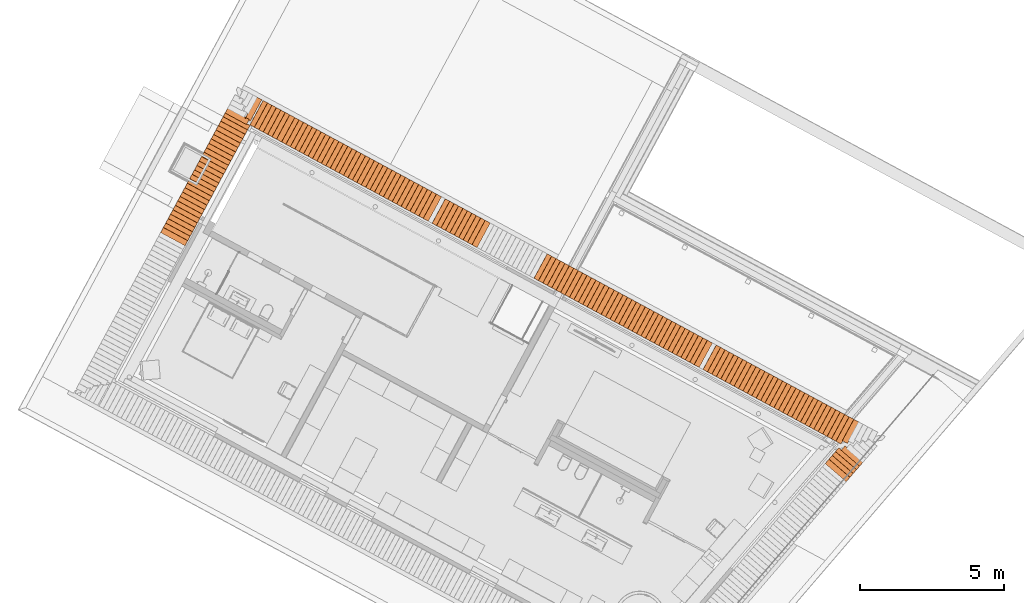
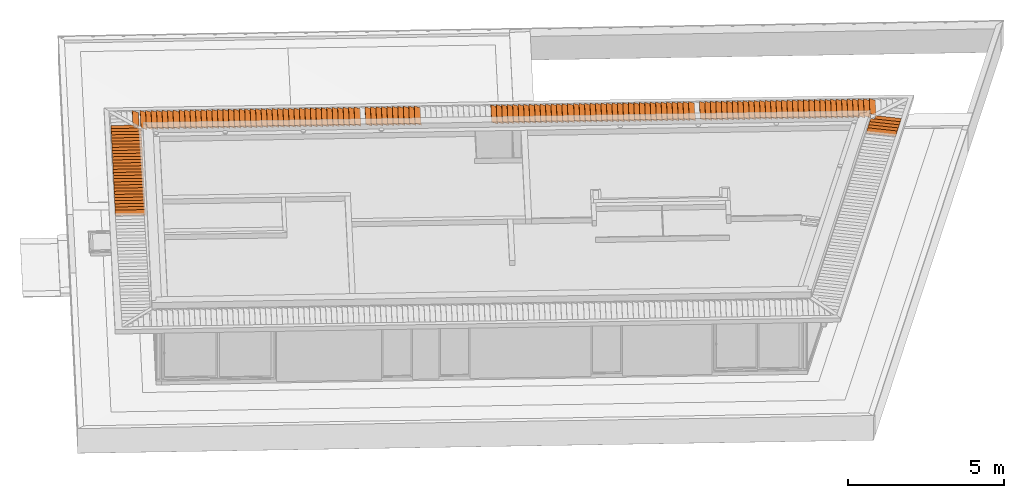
# One storey, part 37 of 48: 153 proxies.
"""IFC2X3 building model written with IfcOpenShell, lengths in metres."""

import ifcopenshell
import ifcopenshell.guid

model = None  # the IFC model being written
_history = None  # IfcOwnerHistory: only IFC2X3 demands one
_inside = {}  # id of a spatial element -> (the spatial element, [elements in it])
_under = {}  # id of a project, library or spatial element -> (it, [spatial elements below it])
_declared = {}  # id of a project -> (the project, [libraries it declares])
_typed = {}  # id of a type object -> (the type object, [elements of that type])
_made_of = {}  # id of a material, layer set ... -> (it, [elements and type objects made of it])


def new_model(schema):
    """Start an empty IFC model of exactly this schema.

    Asked for "IFC4X3", IfcOpenShell would pick the latest addendum, in which some entities
    have other attributes; the version numbers below select the first issue.
    IFC2X3 requires an IfcOwnerHistory on every rooted entity: one is made here for all.
    """
    global model, _history
    if schema == "IFC4X3":
        model = ifcopenshell.file(schema_version=(4, 3, 0, 0))
    else:
        model = ifcopenshell.file(schema=schema)
    _inside.clear()
    _under.clear()
    _declared.clear()
    _typed.clear()
    _made_of.clear()
    _history = None
    if model.schema == "IFC2X3":
        org = make("IfcOrganization", Name="unknown")
        user = make(
            "IfcPersonAndOrganization",
            ThePerson=make("IfcPerson", FamilyName="unknown"),
            TheOrganization=org,
        )
        app = make(
            "IfcApplication",
            ApplicationDeveloper=org,
            Version="unknown",
            ApplicationFullName="unknown",
            ApplicationIdentifier="unknown",
        )
        _history = make(
            "IfcOwnerHistory",
            OwningUser=user,
            OwningApplication=app,
            ChangeAction="ADDED",
            CreationDate=0,
        )
    return model


def make(cls, **values):
    """One entity of the class cls with the attributes given. An attribute that is None is left unset."""
    return model.create_entity(
        cls, **{name: value for name, value in values.items() if value is not None}
    )


def entity(cls, *values):
    """Any entity or typed value of the class cls, its attributes in the order of the schema. None: left unset."""
    e = model.create_entity(cls)
    for i, value in enumerate(values):
        if value is not None:
            e[i] = value
    return e


def rooted(cls, **values):
    """An entity with a GlobalId (a new one), such as an element, a storey or a relation."""
    return make(cls, GlobalId=ifcopenshell.guid.new(), OwnerHistory=_history, **values)


def si_unit(unit_type, name, prefix=None):
    """IfcSIUnit, for example si_unit("LENGTHUNIT", "METRE", prefix="MILLI")."""
    return make("IfcSIUnit", UnitType=unit_type, Prefix=prefix, Name=name)


def converted_unit(unit_type, name, factor, base, dimensions=None, offset=None):
    """IfcConversionBasedUnit, such as the inch: factor (a typed value) times the base unit."""
    return make(
        "IfcConversionBasedUnit"
        if offset is None
        else "IfcConversionBasedUnitWithOffset",
        ConversionOffset=offset,
        Dimensions=None
        if dimensions is None
        else entity("IfcDimensionalExponents", *dimensions),
        UnitType=unit_type,
        Name=name,
        ConversionFactor=make(
            "IfcMeasureWithUnit", ValueComponent=factor, UnitComponent=base
        ),
    )


def derived_unit(unit_type, elements):
    """IfcDerivedUnit: a product of units, each with its exponent."""
    return make(
        "IfcDerivedUnit",
        Elements=[
            make("IfcDerivedUnitElement", Unit=unit, Exponent=power)
            for unit, power in elements
        ],
        UnitType=unit_type,
    )


def money_unit(currency):
    """IfcMonetaryUnit."""
    return make("IfcMonetaryUnit", Currency=currency)


def assignment(units):
    """IfcUnitAssignment: the units of a project."""
    return None if units is None else make("IfcUnitAssignment", Units=units)


def point(xyz):
    """IfcCartesianPoint."""
    return None if xyz is None else make("IfcCartesianPoint", Coordinates=xyz)


def direction(xyz):
    """IfcDirection."""
    return None if xyz is None else make("IfcDirection", DirectionRatios=xyz)


def frame(location, z_axis=None, x_axis=None):
    """IfcAxis2Placement3D, a coordinate frame: its origin and axes. An axis left out is left unset."""
    return make(
        "IfcAxis2Placement3D",
        Location=point(location),
        Axis=direction(z_axis),
        RefDirection=direction(x_axis),
    )


def origin_with_axes():
    """The frame at (0, 0, 0) with the z axis (0, 0, 1) and the x axis (1, 0, 0) written out."""
    return frame((0.0, 0.0, 0.0), z_axis=(0.0, 0.0, 1.0), x_axis=(1.0, 0.0, 0.0))


def place(relative_to, where):
    """IfcLocalPlacement: puts the frame where relative to a parent placement (None: the world)."""
    return make(
        "IfcLocalPlacement", PlacementRelTo=relative_to, RelativePlacement=where
    )


def context(
    kind, dimensions, precision=None, world=None, true_north=None, identifier=None
):
    """IfcGeometricRepresentationContext, for example the 3D "Model" context."""
    return make(
        "IfcGeometricRepresentationContext",
        ContextIdentifier=identifier,
        ContextType=kind,
        CoordinateSpaceDimension=dimensions,
        Precision=precision,
        WorldCoordinateSystem=world,
        TrueNorth=true_north,
    )


def subcontext(parent, identifier, kind, view, scale=None):
    """IfcGeometricRepresentationSubContext, for example "Body" below "Model"."""
    return make(
        "IfcGeometricRepresentationSubContext",
        ContextIdentifier=identifier,
        ContextType=kind,
        ParentContext=parent,
        TargetScale=scale,
        TargetView=view,
    )


def project(units=None, contexts=None):
    """IfcProject with its units and contexts."""
    return rooted(
        "IfcProject",
        Name="project",
        RepresentationContexts=contexts,
        UnitsInContext=assignment(units),
    )


def spatial(cls, under=None, at=None, **own):
    """A site, building, storey or space (cls), placed at a placement, below another one or the project."""
    s = rooted(cls, ObjectPlacement=at, **own)
    if under is not None:
        _under.setdefault(under.id(), (under, []))[1].append(s)
    return s


def faces_of(points, faces, orient=None, outer=None):
    """IfcFace entities. A face is a list of loops; a loop is a list of indices into points, from 0.

    orient and outer hold one flag for each loop. By default every Orientation is true, the
    first loop of a face is its IfcFaceOuterBound and the others are IfcFaceBound.
    """
    made = []
    for i, loops in enumerate(faces):
        bounds = []
        for j, loop in enumerate(loops):
            is_outer = j == 0 if outer is None else outer[i][j]
            bounds.append(
                make(
                    "IfcFaceOuterBound" if is_outer else "IfcFaceBound",
                    Bound=make("IfcPolyLoop", Polygon=[points[k] for k in loop]),
                    Orientation=True if orient is None else orient[i][j],
                )
            )
        made.append(make("IfcFace", Bounds=bounds))
    return made


def faceted_brep(points, faces, orient=None, outer=None, voids=None):
    """IfcFacetedBrep: a solid bounded by flat faces; with voids (closed shells), ...WithVoids."""
    shared = [point(p) for p in points]
    hull = make("IfcClosedShell", CfsFaces=faces_of(shared, faces, orient, outer))
    if voids is None:
        return make("IfcFacetedBrep", Outer=hull)
    return make(
        "IfcFacetedBrepWithVoids",
        Outer=hull,
        Voids=[
            make(cls, CfsFaces=faces_of(shared, fs, o, b)) for cls, fs, o, b in voids
        ],
    )


def shape(context_of_items, identifier, shape_type, items):
    """IfcShapeRepresentation: the items that make up one representation, for example the "Body"."""
    return make(
        "IfcShapeRepresentation",
        ContextOfItems=context_of_items,
        RepresentationIdentifier=identifier,
        RepresentationType=shape_type,
        Items=items,
    )


def source(mapping_origin, context_of_items, identifier, shape_type, items):
    """IfcRepresentationMap: a shape defined once, which mapped items show again and again."""
    return make(
        "IfcRepresentationMap",
        MappingOrigin=mapping_origin,
        MappedRepresentation=shape(context_of_items, identifier, shape_type, items),
    )


def transform(
    local_origin,
    x_axis=None,
    y_axis=None,
    z_axis=None,
    scale=None,
    scale2=None,
    scale3=None,
    uniform=True,
):
    """IfcCartesianTransformationOperator3D, or its non-uniform kind. x_axis, y_axis, z_axis: its Axis1, 2, 3."""
    if uniform:
        return make(
            "IfcCartesianTransformationOperator3D",
            Axis1=direction(x_axis),
            Axis2=direction(y_axis),
            LocalOrigin=point(local_origin),
            Scale=scale,
            Axis3=direction(z_axis),
        )
    return make(
        "IfcCartesianTransformationOperator3DnonUniform",
        Axis1=direction(x_axis),
        Axis2=direction(y_axis),
        LocalOrigin=point(local_origin),
        Scale=scale,
        Axis3=direction(z_axis),
        Scale2=scale2,
        Scale3=scale3,
    )


def mapped(mapping_source, mapping_target):
    """IfcMappedItem: shows the shape of a source again, moved by a transform."""
    return make(
        "IfcMappedItem", MappingSource=mapping_source, MappingTarget=mapping_target
    )


def material(Name=None, Category=None):
    """IfcMaterial."""
    return make("IfcMaterial", Name=Name, Category=Category)


def made_of(thing, what):
    """Note that an element or type object is made of a material, layer set ...; save() writes the relation."""
    if what is not None:
        _made_of.setdefault(what.id(), (what, []))[1].append(thing)
    return thing


def type_object(cls, material=None, **own):
    """A type object (cls), such as IfcWallType, which elements share."""
    return made_of(rooted(cls, **own), material)


def element(
    cls,
    number,
    at=None,
    inside=None,
    cuts=None,
    type_object=None,
    material=None,
    context=None,
    identifier="Body",
    shape_type=None,
    held_by="IfcProductDefinitionShape",
    body=None,
    shapes=None,
    **own,
):
    """One element of the class cls, such as IfcWall. Its Tag is "e" and its number.

    at: its placement. inside: the storey or other place that contains it. cuts: it is an
    opening in that element (IfcRelVoidsElement). A single representation is given by context,
    identifier, shape_type and body (its items); several are given by shapes. held_by: the class
    of the entity that holds the representations. save() writes the other relations.
    """
    e = rooted(cls, Tag="e%d" % number, ObjectPlacement=at, **own)
    if body is not None:
        shapes = [shape(context, identifier, shape_type, body)]
    if shapes is not None:
        e.Representation = make(held_by, Representations=shapes)
    if inside is not None:
        _inside.setdefault(inside.id(), (inside, []))[1].append(e)
    if cuts is not None:
        rooted(
            "IfcRelVoidsElement", RelatingBuildingElement=cuts, RelatedOpeningElement=e
        )
    if type_object is not None:
        _typed.setdefault(type_object.id(), (type_object, []))[1].append(e)
    return made_of(e, material)


def aggregate(whole, parts):
    """IfcRelAggregates: a whole, such as a stair, and the parts it consists of."""
    return rooted("IfcRelAggregates", RelatingObject=whole, RelatedObjects=parts)


def save(model, path):
    """Write the relations noted so far, then the file.

    IfcRelAggregates (storeys below a building ...), IfcRelContainedInSpatialStructure (elements
    in a storey), IfcRelDefinesByType, IfcRelAssociatesMaterial and IfcRelDeclares: one each for
    every whole, place, type object, material and project.
    """
    for whole, parts in _under.values():
        aggregate(whole, parts)
    for where, things in _inside.values():
        rooted(
            "IfcRelContainedInSpatialStructure",
            RelatedElements=things,
            RelatingStructure=where,
        )
    for kind, things in _typed.values():
        rooted("IfcRelDefinesByType", RelatedObjects=things, RelatingType=kind)
    for what, things in _made_of.values():
        rooted("IfcRelAssociatesMaterial", RelatedObjects=things, RelatingMaterial=what)
    for by, libraries in _declared.values():
        rooted("IfcRelDeclares", RelatingContext=by, RelatedDefinitions=libraries)
    model.write(path)


model = new_model("IFC2X3")

# Units and contexts
model_context = context("Model", 3, precision=1e-05, world=origin_with_axes(), true_north=direction((0.0, 1.0)))
body_context = subcontext(model_context, "Body", "Model", "MODEL_VIEW")
ifc_project = project(units=[si_unit("LENGTHUNIT", "METRE"), si_unit("AREAUNIT", "SQUARE_METRE"), si_unit("VOLUMEUNIT", "CUBIC_METRE"), converted_unit("PLANEANGLEUNIT", "DEGREE", entity("IfcPlaneAngleMeasure", 0.0174532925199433), si_unit("PLANEANGLEUNIT", "RADIAN"), dimensions=[0, 0, 0, 0, 0, 0, 0]), money_unit("EUR"), converted_unit("TIMEUNIT", "Year", entity("IfcTimeMeasure", 31556926.0), si_unit("TIMEUNIT", "SECOND"), dimensions=[0, 0, 1, 0, 0, 0, 0]), si_unit("MASSUNIT", "GRAM", prefix="KILO"), si_unit("THERMODYNAMICTEMPERATUREUNIT", "DEGREE_CELSIUS"), si_unit("LUMINOUSINTENSITYUNIT", "LUMEN"), si_unit("ENERGYUNIT", "JOULE", prefix="MEGA"), derived_unit("THERMALCONDUCTANCEUNIT", [(si_unit("POWERUNIT", "WATT"), 1), (si_unit("LENGTHUNIT", "METRE"), -1), (si_unit("THERMODYNAMICTEMPERATUREUNIT", "KELVIN"), -1)]), derived_unit("SPECIFICHEATCAPACITYUNIT", [(si_unit("ENERGYUNIT", "JOULE"), 1), (si_unit("MASSUNIT", "GRAM", prefix="KILO"), -1), (si_unit("THERMODYNAMICTEMPERATUREUNIT", "KELVIN"), -1)]), derived_unit("MASSDENSITYUNIT", [(si_unit("MASSUNIT", "GRAM", prefix="KILO"), 1), (si_unit("VOLUMEUNIT", "CUBIC_METRE"), -1)])], contexts=[model_context])

# Site, building, storey
site_placement = place(None, frame((-3.949935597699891, 1.740105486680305, 0.0), z_axis=(0.0, 0.0, 1.0), x_axis=(0.8799804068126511, -0.475009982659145, 0.0)))
site = spatial("IfcSite", under=ifc_project, at=site_placement, Name="Gelände", CompositionType="ELEMENT")
building_placement = place(site_placement, origin_with_axes())
building = spatial("IfcBuilding", under=site, at=building_placement, Name="Gebäude", CompositionType="ELEMENT")
storey_placement = place(building_placement, frame((0.0, 0.0, 4.55), z_axis=(0.0, 0.0, 1.0), x_axis=(1.0, 0.0, 0.0)))
storey = spatial("IfcBuildingStorey", under=building, at=storey_placement, Name="Staffelgeschoss", CompositionType="ELEMENT", Elevation=4.55)

# Proxies
ifc_material = material(Name="ALLGEMEIN - BAUTEIL")
building_element_proxy_type = type_object("IfcBuildingElementProxyType", Name="ALLGEMEIN - BAUTEIL", PredefinedType="NOTDEFINED")
shared_shape_1 = source(origin_with_axes(), body_context, "Body", "Brep", [
    faceted_brep([(0.2148913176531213, -0.9669323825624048, 0.0), (0.0, -0.9669000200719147, 0.0), (0.0, 0.0, 0.0), (0.2150369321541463, -3.238441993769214e-05, 0.0), (0.2148913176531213, -0.9669323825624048, 0.009999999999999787), (0.0, -0.9669000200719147, 0.009999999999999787), (0.0, 0.0, 0.009999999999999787), (0.2150369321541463, -3.238441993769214e-05, 0.009999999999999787)], [[[0, 1, 2, 3]], [[1, 0, 4, 5]], [[5, 6, 2, 1]], [[6, 7, 3, 2]], [[4, 0, 3, 7]], [[6, 5, 4, 7]]]),
])
for number, where, z_axis, x_axis, name in (
    (1, (5.895087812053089, 12.18825268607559, 2.903466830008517), (0.3575193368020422, 0.0, 0.933905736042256), (0.933905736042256, 0.0, -0.3575193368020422), "Morph-037"),
    (2, (6.070046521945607, 12.18825268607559, 2.903466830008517), (0.3575193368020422, 0.0, 0.933905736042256), (0.933905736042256, 0.0, -0.3575193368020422), "Morph-037"),
    (3, (5.034057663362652, 11.20856037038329, 2.903466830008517), (0.0, -0.3575193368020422, 0.933905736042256), (0.0, -0.933905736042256, -0.3575193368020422), "Morph-037"),
    (4, (5.034057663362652, 11.03360166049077, 2.903466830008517), (0.0, -0.3575193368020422, 0.933905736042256), (0.0, -0.933905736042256, -0.3575193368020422), "Morph-037"),
    (5, (5.034057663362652, 10.85864295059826, 2.903466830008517), (0.0, -0.3575193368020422, 0.933905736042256), (0.0, -0.933905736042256, -0.3575193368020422), "Morph-037"),
    (6, (5.034057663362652, 10.50872553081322, 2.903466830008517), (0.0, -0.3575193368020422, 0.933905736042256), (0.0, -0.933905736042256, -0.3575193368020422), "Morph-037"),
    (7, (5.034057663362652, 10.68368424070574, 2.903466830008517), (0.0, -0.3575193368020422, 0.933905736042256), (0.0, -0.933905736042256, -0.3575193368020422), "Morph-037"),
    (8, (5.034057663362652, 10.3337668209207, 2.903466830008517), (0.0, -0.3575193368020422, 0.933905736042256), (0.0, -0.933905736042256, -0.3575193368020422), "Morph-037"),
    (9, (5.034057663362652, 10.15880811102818, 2.903466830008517), (0.0, -0.3575193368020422, 0.933905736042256), (0.0, -0.933905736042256, -0.3575193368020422), "Morph-037"),
    (10, (5.034057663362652, 9.983849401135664, 2.903466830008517), (0.0, -0.3575193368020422, 0.933905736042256), (0.0, -0.933905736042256, -0.3575193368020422), "Morph-037"),
    (11, (5.034057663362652, 9.808890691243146, 2.903466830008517), (0.0, -0.3575193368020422, 0.933905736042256), (0.0, -0.933905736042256, -0.3575193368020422), "Morph-037"),
    (12, (5.034057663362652, 9.45897327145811, 2.903466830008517), (0.0, -0.3575193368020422, 0.933905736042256), (0.0, -0.933905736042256, -0.3575193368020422), "Morph-037"),
    (13, (5.034057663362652, 9.633931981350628, 2.903466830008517), (0.0, -0.3575193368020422, 0.933905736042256), (0.0, -0.933905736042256, -0.3575193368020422), "Morph-037"),
    (14, (5.034057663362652, 9.284014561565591, 2.903466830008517), (0.0, -0.3575193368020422, 0.933905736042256), (0.0, -0.933905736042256, -0.3575193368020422), "Morph-037"),
    (15, (5.034057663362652, 8.934097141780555, 2.903466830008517), (0.0, -0.3575193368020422, 0.933905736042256), (0.0, -0.933905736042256, -0.3575193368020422), "Morph-037"),
    (16, (5.034057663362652, 9.109055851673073, 2.903466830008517), (0.0, -0.3575193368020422, 0.933905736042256), (0.0, -0.933905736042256, -0.3575193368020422), "Morph-037"),
    (17, (5.034057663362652, 8.759138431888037, 2.903466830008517), (0.0, -0.3575193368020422, 0.933905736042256), (0.0, -0.933905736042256, -0.3575193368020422), "Morph-037"),
    (18, (5.034057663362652, 8.584179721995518, 2.903466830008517), (0.0, -0.3575193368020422, 0.933905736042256), (0.0, -0.933905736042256, -0.3575193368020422), "Morph-037"),
    (19, (5.034057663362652, 8.409221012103, 2.903466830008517), (0.0, -0.3575193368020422, 0.933905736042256), (0.0, -0.933905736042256, -0.3575193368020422), "Morph-037"),
    (20, (5.034057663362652, 8.059303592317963, 2.903466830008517), (0.0, -0.3575193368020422, 0.933905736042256), (0.0, -0.933905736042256, -0.3575193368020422), "Morph-037"),
    (21, (5.034057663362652, 7.884344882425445, 2.903466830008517), (0.0, -0.3575193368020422, 0.933905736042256), (0.0, -0.933905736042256, -0.3575193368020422), "Morph-037"),
    (22, (5.034057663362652, 8.234262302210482, 2.903466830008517), (0.0, -0.3575193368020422, 0.933905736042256), (0.0, -0.933905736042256, -0.3575193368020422), "Morph-037"),
    (23, (5.034057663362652, 7.709386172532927, 2.903466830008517), (0.0, -0.3575193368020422, 0.933905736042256), (0.0, -0.933905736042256, -0.3575193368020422), "Morph-037"),
    (24, (5.034057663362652, 7.534427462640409, 2.903466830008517), (0.0, -0.3575193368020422, 0.933905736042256), (0.0, -0.933905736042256, -0.3575193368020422), "Morph-037"),
    (25, (5.034057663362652, 7.35946875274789, 2.903466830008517), (0.0, -0.3575193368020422, 0.933905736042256), (0.0, -0.933905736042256, -0.3575193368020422), "Morph-037"),
    (26, (5.034057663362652, 7.184510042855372, 2.903466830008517), (0.0, -0.3575193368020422, 0.933905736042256), (0.0, -0.933905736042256, -0.3575193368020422), "Morph-037"),
    (27, (5.034057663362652, 7.009551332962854, 2.903466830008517), (0.0, -0.3575193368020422, 0.933905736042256), (0.0, -0.933905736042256, -0.3575193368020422), "Morph-037"),
    (28, (5.034057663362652, 6.834592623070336, 2.903466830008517), (0.0, -0.3575193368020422, 0.933905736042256), (0.0, -0.933905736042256, -0.3575193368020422), "Morph-037"),
    (29, (5.034057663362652, 6.659633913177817, 2.903466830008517), (0.0, -0.3575193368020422, 0.933905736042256), (0.0, -0.933905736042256, -0.3575193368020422), "Morph-037"),
    (30, (6.61542166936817, 12.18825268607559, 2.903466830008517), (0.3575193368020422, 0.0, 0.933905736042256), (0.933905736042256, 0.0, -0.3575193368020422), "Morph-037"),
    (31, (6.440462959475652, 12.18825268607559, 2.903466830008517), (0.3575193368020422, 0.0, 0.933905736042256), (0.933905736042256, 0.0, -0.3575193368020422), "Morph-037"),
    (32, (6.790380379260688, 12.18825268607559, 2.903466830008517), (0.3575193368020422, 0.0, 0.933905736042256), (0.933905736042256, 0.0, -0.3575193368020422), "Morph-037"),
    (33, (7.140297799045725, 12.18825268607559, 2.903466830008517), (0.3575193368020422, 0.0, 0.933905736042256), (0.933905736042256, 0.0, -0.3575193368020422), "Morph-037"),
    (34, (6.965339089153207, 12.18825268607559, 2.903466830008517), (0.3575193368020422, 0.0, 0.933905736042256), (0.933905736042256, 0.0, -0.3575193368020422), "Morph-037"),
    (35, (7.315256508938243, 12.18825268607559, 2.903466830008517), (0.3575193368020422, 0.0, 0.933905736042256), (0.933905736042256, 0.0, -0.3575193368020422), "Morph-037"),
    (36, (7.490215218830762, 12.18825268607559, 2.903466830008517), (0.3575193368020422, 0.0, 0.933905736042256), (0.933905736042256, 0.0, -0.3575193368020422), "Morph-037"),
    (37, (7.66517392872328, 12.18825268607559, 2.903466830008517), (0.3575193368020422, 0.0, 0.933905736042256), (0.933905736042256, 0.0, -0.3575193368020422), "Morph-037"),
    (38, (7.840132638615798, 12.18825268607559, 2.903466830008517), (0.3575193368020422, 0.0, 0.933905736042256), (0.933905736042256, 0.0, -0.3575193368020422), "Morph-037"),
    (39, (8.190050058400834, 12.18825268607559, 2.903466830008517), (0.3575193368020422, 0.0, 0.933905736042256), (0.933905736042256, 0.0, -0.3575193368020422), "Morph-037"),
    (40, (8.015091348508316, 12.18825268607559, 2.903466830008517), (0.3575193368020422, 0.0, 0.933905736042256), (0.933905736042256, 0.0, -0.3575193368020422), "Morph-037"),
    (41, (8.365008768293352, 12.18825268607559, 2.903466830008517), (0.3575193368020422, 0.0, 0.933905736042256), (0.933905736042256, 0.0, -0.3575193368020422), "Morph-037"),
    (42, (8.714926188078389, 12.18825268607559, 2.903466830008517), (0.3575193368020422, 0.0, 0.933905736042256), (0.933905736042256, 0.0, -0.3575193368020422), "Morph-037"),
    (43, (8.53996747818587, 12.18825268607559, 2.903466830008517), (0.3575193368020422, 0.0, 0.933905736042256), (0.933905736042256, 0.0, -0.3575193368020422), "Morph-037"),
    (44, (8.889884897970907, 12.18825268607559, 2.903466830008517), (0.3575193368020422, 0.0, 0.933905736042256), (0.933905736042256, 0.0, -0.3575193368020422), "Morph-037"),
    (45, (9.064843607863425, 12.18825268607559, 2.903466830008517), (0.3575193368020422, 0.0, 0.933905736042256), (0.933905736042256, 0.0, -0.3575193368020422), "Morph-037"),
    (46, (9.239802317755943, 12.18825268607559, 2.903466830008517), (0.3575193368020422, 0.0, 0.933905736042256), (0.933905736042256, 0.0, -0.3575193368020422), "Morph-037"),
    (47, (9.414761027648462, 12.18825268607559, 2.903466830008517), (0.3575193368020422, 0.0, 0.933905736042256), (0.933905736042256, 0.0, -0.3575193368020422), "Morph-037"),
    (48, (9.58971973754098, 12.18825268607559, 2.903466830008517), (0.3575193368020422, 0.0, 0.933905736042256), (0.933905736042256, 0.0, -0.3575193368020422), "Morph-037"),
    (49, (9.764678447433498, 12.18825268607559, 2.903466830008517), (0.3575193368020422, 0.0, 0.933905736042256), (0.933905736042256, 0.0, -0.3575193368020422), "Morph-037"),
    (50, (9.939637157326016, 12.18825268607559, 2.903466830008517), (0.3575193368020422, 0.0, 0.933905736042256), (0.933905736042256, 0.0, -0.3575193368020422), "Morph-037"),
    (51, (10.11459586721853, 12.18825268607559, 2.903466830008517), (0.3575193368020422, 0.0, 0.933905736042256), (0.933905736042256, 0.0, -0.3575193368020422), "Morph-037"),
    (52, (10.28955457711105, 12.18825268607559, 2.903466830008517), (0.3575193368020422, 0.0, 0.933905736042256), (0.933905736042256, 0.0, -0.3575193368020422), "Morph-037"),
    (53, (10.63947199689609, 12.18825268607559, 2.903466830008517), (0.3575193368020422, 0.0, 0.933905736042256), (0.933905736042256, 0.0, -0.3575193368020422), "Morph-037"),
    (54, (10.46451328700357, 12.18825268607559, 2.903466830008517), (0.3575193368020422, 0.0, 0.933905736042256), (0.933905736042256, 0.0, -0.3575193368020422), "Morph-037"),
    (55, (10.81443070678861, 12.18825268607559, 2.903466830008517), (0.3575193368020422, 0.0, 0.933905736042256), (0.933905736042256, 0.0, -0.3575193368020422), "Morph-037"),
    (56, (10.98938941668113, 12.18825268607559, 2.903466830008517), (0.3575193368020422, 0.0, 0.933905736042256), (0.933905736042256, 0.0, -0.3575193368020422), "Morph-037"),
    (57, (11.16434812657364, 12.18825268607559, 2.903466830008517), (0.3575193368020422, 0.0, 0.933905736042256), (0.933905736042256, 0.0, -0.3575193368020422), "Morph-037"),
    (58, (11.33930683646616, 12.18825268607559, 2.903466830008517), (0.3575193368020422, 0.0, 0.933905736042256), (0.933905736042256, 0.0, -0.3575193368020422), "Morph-037"),
    (59, (11.51426554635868, 12.18825268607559, 2.903466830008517), (0.3575193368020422, 0.0, 0.933905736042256), (0.933905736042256, 0.0, -0.3575193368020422), "Morph-037"),
    (60, (11.6892242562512, 12.18825268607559, 2.903466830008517), (0.3575193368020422, 0.0, 0.933905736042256), (0.933905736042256, 0.0, -0.3575193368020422), "Morph-037"),
    (61, (11.86418296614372, 12.18825268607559, 2.903466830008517), (0.3575193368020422, 0.0, 0.933905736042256), (0.933905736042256, 0.0, -0.3575193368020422), "Morph-037"),
    (62, (12.21410038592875, 12.18825268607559, 2.903466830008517), (0.3575193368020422, 0.0, 0.933905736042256), (0.933905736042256, 0.0, -0.3575193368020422), "Morph-037"),
    (63, (12.38905909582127, 12.18825268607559, 2.903466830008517), (0.3575193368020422, 0.0, 0.933905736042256), (0.933905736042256, 0.0, -0.3575193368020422), "Morph-037"),
    (64, (12.73897651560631, 12.18825268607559, 2.903466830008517), (0.3575193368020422, 0.0, 0.933905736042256), (0.933905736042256, 0.0, -0.3575193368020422), "Morph-037"),
    (65, (12.91393522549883, 12.18825268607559, 2.903466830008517), (0.3575193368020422, 0.0, 0.933905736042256), (0.933905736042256, 0.0, -0.3575193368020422), "Morph-037"),
    (66, (13.08889393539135, 12.18825268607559, 2.903466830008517), (0.3575193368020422, 0.0, 0.933905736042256), (0.933905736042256, 0.0, -0.3575193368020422), "Morph-037"),
    (67, (13.26385264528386, 12.18825268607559, 2.903466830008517), (0.3575193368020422, 0.0, 0.933905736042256), (0.933905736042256, 0.0, -0.3575193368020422), "Morph-037"),
    (68, (13.43881135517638, 12.18825268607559, 2.903466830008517), (0.3575193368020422, 0.0, 0.933905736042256), (0.933905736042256, 0.0, -0.3575193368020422), "Morph-037"),
    (69, (13.6137700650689, 12.18825268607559, 2.903466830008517), (0.3575193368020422, 0.0, 0.933905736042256), (0.933905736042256, 0.0, -0.3575193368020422), "Morph-037"),
    (70, (13.78872877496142, 12.18825268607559, 2.903466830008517), (0.3575193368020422, 0.0, 0.933905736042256), (0.933905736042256, 0.0, -0.3575193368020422), "Morph-037"),
    (71, (12.56401780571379, 12.18825268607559, 2.903466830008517), (0.3575193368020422, 0.0, 0.933905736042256), (0.933905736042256, 0.0, -0.3575193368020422), "Morph-037"),
    (72, (16.23815071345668, 12.18825268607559, 2.903466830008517), (0.3575193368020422, 0.0, 0.933905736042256), (0.933905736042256, 0.0, -0.3575193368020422), "Morph-037"),
    (73, (16.41310942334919, 12.18825268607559, 2.903466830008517), (0.3575193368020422, 0.0, 0.933905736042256), (0.933905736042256, 0.0, -0.3575193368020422), "Morph-037"),
    (74, (16.76302684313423, 12.18825268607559, 2.903466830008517), (0.3575193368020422, 0.0, 0.933905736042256), (0.933905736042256, 0.0, -0.3575193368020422), "Morph-037"),
    (75, (16.58806813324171, 12.18825268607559, 2.903466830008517), (0.3575193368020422, 0.0, 0.933905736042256), (0.933905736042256, 0.0, -0.3575193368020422), "Morph-037"),
    (76, (16.93798555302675, 12.18825268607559, 2.903466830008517), (0.3575193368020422, 0.0, 0.933905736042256), (0.933905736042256, 0.0, -0.3575193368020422), "Morph-037"),
    (77, (17.11294426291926, 12.18825268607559, 2.903466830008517), (0.3575193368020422, 0.0, 0.933905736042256), (0.933905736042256, 0.0, -0.3575193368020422), "Morph-037"),
    (78, (17.4628616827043, 12.18825268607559, 2.903466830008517), (0.3575193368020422, 0.0, 0.933905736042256), (0.933905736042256, 0.0, -0.3575193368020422), "Morph-037"),
    (79, (17.63782039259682, 12.18825268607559, 2.903466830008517), (0.3575193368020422, 0.0, 0.933905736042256), (0.933905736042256, 0.0, -0.3575193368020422), "Morph-037"),
    (80, (17.28790297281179, 12.18825268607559, 2.903466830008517), (0.3575193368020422, 0.0, 0.933905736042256), (0.933905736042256, 0.0, -0.3575193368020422), "Morph-037"),
    (81, (17.81277910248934, 12.18825268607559, 2.903466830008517), (0.3575193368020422, 0.0, 0.933905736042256), (0.933905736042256, 0.0, -0.3575193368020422), "Morph-037"),
    (82, (17.98773781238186, 12.18825268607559, 2.903466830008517), (0.3575193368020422, 0.0, 0.933905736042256), (0.933905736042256, 0.0, -0.3575193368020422), "Morph-037"),
    (83, (18.16269652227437, 12.18825268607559, 2.903466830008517), (0.3575193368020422, 0.0, 0.933905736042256), (0.933905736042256, 0.0, -0.3575193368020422), "Morph-037"),
    (84, (18.3376552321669, 12.18825268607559, 2.903466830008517), (0.3575193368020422, 0.0, 0.933905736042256), (0.933905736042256, 0.0, -0.3575193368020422), "Morph-037"),
    (85, (18.68757265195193, 12.18825268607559, 2.903466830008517), (0.3575193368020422, 0.0, 0.933905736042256), (0.933905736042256, 0.0, -0.3575193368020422), "Morph-037"),
    (86, (18.51261394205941, 12.18825268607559, 2.903466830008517), (0.3575193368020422, 0.0, 0.933905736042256), (0.933905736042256, 0.0, -0.3575193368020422), "Morph-037"),
    (87, (19.06321959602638, 12.1882203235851, 2.903466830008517), (0.3575193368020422, 0.0, 0.933905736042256), (0.933905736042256, 0.0, -0.3575193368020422), "Morph-037"),
    (88, (19.41313701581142, 12.1882203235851, 2.903466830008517), (0.3575193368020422, 0.0, 0.933905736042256), (0.933905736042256, 0.0, -0.3575193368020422), "Morph-037"),
    (89, (19.2381783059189, 12.1882203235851, 2.903466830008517), (0.3575193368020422, 0.0, 0.933905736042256), (0.933905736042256, 0.0, -0.3575193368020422), "Morph-037"),
    (90, (19.58809572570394, 12.1882203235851, 2.903466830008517), (0.3575193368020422, 0.0, 0.933905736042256), (0.933905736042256, 0.0, -0.3575193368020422), "Morph-037"),
    (91, (19.76305443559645, 12.1882203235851, 2.903466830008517), (0.3575193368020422, 0.0, 0.933905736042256), (0.933905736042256, 0.0, -0.3575193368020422), "Morph-037"),
    (92, (19.93801314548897, 12.1882203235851, 2.903466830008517), (0.3575193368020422, 0.0, 0.933905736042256), (0.933905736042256, 0.0, -0.3575193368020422), "Morph-037"),
    (93, (20.11297185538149, 12.1882203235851, 2.903466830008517), (0.3575193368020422, 0.0, 0.933905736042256), (0.933905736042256, 0.0, -0.3575193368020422), "Morph-037"),
    (94, (20.28793056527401, 12.1882203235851, 2.903466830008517), (0.3575193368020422, 0.0, 0.933905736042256), (0.933905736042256, 0.0, -0.3575193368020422), "Morph-037"),
    (95, (20.46288927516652, 12.1882203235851, 2.903466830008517), (0.3575193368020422, 0.0, 0.933905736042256), (0.933905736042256, 0.0, -0.3575193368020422), "Morph-037"),
    (96, (20.63784798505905, 12.1882203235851, 2.903466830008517), (0.3575193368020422, 0.0, 0.933905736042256), (0.933905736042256, 0.0, -0.3575193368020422), "Morph-037"),
    (97, (20.98776540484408, 12.1882203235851, 2.903466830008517), (0.3575193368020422, 0.0, 0.933905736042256), (0.933905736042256, 0.0, -0.3575193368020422), "Morph-037"),
    (98, (20.81280669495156, 12.1882203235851, 2.903466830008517), (0.3575193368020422, 0.0, 0.933905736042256), (0.933905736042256, 0.0, -0.3575193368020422), "Morph-037"),
    (99, (21.1627241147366, 12.1882203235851, 2.903466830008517), (0.3575193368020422, 0.0, 0.933905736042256), (0.933905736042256, 0.0, -0.3575193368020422), "Morph-037"),
    (100, (21.51264153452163, 12.1882203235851, 2.903466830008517), (0.3575193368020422, 0.0, 0.933905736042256), (0.933905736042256, 0.0, -0.3575193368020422), "Morph-037"),
    (101, (21.33768282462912, 12.1882203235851, 2.903466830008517), (0.3575193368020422, 0.0, 0.933905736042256), (0.933905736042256, 0.0, -0.3575193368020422), "Morph-037"),
    (102, (21.68760024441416, 12.1882203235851, 2.903466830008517), (0.3575193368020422, 0.0, 0.933905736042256), (0.933905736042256, 0.0, -0.3575193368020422), "Morph-037"),
    (103, (21.86255895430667, 12.1882203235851, 2.903466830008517), (0.3575193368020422, 0.0, 0.933905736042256), (0.933905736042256, 0.0, -0.3575193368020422), "Morph-037"),
    (104, (22.03751766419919, 12.1882203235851, 2.903466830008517), (0.3575193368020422, 0.0, 0.933905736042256), (0.933905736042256, 0.0, -0.3575193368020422), "Morph-037"),
    (105, (22.21247637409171, 12.1882203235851, 2.903466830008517), (0.3575193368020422, 0.0, 0.933905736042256), (0.933905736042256, 0.0, -0.3575193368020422), "Morph-037"),
    (106, (22.38743508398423, 12.1882203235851, 2.903466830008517), (0.3575193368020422, 0.0, 0.933905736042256), (0.933905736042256, 0.0, -0.3575193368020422), "Morph-037"),
    (107, (22.56239379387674, 12.1882203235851, 2.903466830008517), (0.3575193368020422, 0.0, 0.933905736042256), (0.933905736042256, 0.0, -0.3575193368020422), "Morph-037"),
    (108, (22.91231121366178, 12.1882203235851, 2.903466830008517), (0.3575193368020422, 0.0, 0.933905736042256), (0.933905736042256, 0.0, -0.3575193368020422), "Morph-037"),
    (109, (23.0872699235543, 12.1882203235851, 2.903466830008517), (0.3575193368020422, 0.0, 0.933905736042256), (0.933905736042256, 0.0, -0.3575193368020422), "Morph-037"),
    (110, (23.26222863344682, 12.1882203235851, 2.903466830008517), (0.3575193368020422, 0.0, 0.933905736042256), (0.933905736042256, 0.0, -0.3575193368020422), "Morph-037"),
    (111, (23.61214605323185, 12.1882203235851, 2.903466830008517), (0.3575193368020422, 0.0, 0.933905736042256), (0.933905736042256, 0.0, -0.3575193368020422), "Morph-037"),
    (112, (23.43718734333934, 12.1882203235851, 2.903466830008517), (0.3575193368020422, 0.0, 0.933905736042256), (0.933905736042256, 0.0, -0.3575193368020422), "Morph-037"),
    (113, (23.96206347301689, 12.1882203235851, 2.903466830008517), (0.3575193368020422, 0.0, 0.933905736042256), (0.933905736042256, 0.0, -0.3575193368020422), "Morph-037"),
    (114, (23.78710476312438, 12.1882203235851, 2.903466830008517), (0.3575193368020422, 0.0, 0.933905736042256), (0.933905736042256, 0.0, -0.3575193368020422), "Morph-037"),
    (115, (24.13702218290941, 12.1882203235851, 2.903466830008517), (0.3575193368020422, 0.0, 0.933905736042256), (0.933905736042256, 0.0, -0.3575193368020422), "Morph-037"),
    (116, (24.31198089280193, 12.1882203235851, 2.903466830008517), (0.3575193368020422, 0.0, 0.933905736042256), (0.933905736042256, 0.0, -0.3575193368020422), "Morph-037"),
    (117, (24.48693960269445, 12.1882203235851, 2.903466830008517), (0.3575193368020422, 0.0, 0.933905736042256), (0.933905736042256, 0.0, -0.3575193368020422), "Morph-037"),
    (118, (24.66189831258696, 12.1882203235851, 2.903466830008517), (0.3575193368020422, 0.0, 0.933905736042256), (0.933905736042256, 0.0, -0.3575193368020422), "Morph-037"),
    (119, (24.83685702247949, 12.1882203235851, 2.903466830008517), (0.3575193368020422, 0.0, 0.933905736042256), (0.933905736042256, 0.0, -0.3575193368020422), "Morph-037"),
    (120, (25.011815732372, 12.1882203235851, 2.903466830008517), (0.3575193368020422, 0.0, 0.933905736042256), (0.933905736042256, 0.0, -0.3575193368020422), "Morph-037"),
    (121, (25.18677444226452, 12.1882203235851, 2.903466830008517), (0.3575193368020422, 0.0, 0.933905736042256), (0.933905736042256, 0.0, -0.3575193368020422), "Morph-037"),
    (122, (25.53669186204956, 12.1882203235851, 2.903466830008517), (0.3575193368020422, 0.0, 0.933905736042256), (0.933905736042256, 0.0, -0.3575193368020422), "Morph-037"),
    (123, (25.36173315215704, 12.1882203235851, 2.903466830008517), (0.3575193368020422, 0.0, 0.933905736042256), (0.933905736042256, 0.0, -0.3575193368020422), "Morph-037"),
    (124, (25.71165057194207, 12.1882203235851, 2.903466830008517), (0.3575193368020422, 0.0, 0.933905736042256), (0.933905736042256, 0.0, -0.3575193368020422), "Morph-037"),
    (125, (25.88660928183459, 12.1882203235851, 2.903466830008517), (0.3575193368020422, 0.0, 0.933905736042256), (0.933905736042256, 0.0, -0.3575193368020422), "Morph-037"),
    (126, (26.06156799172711, 12.1882203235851, 2.903466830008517), (0.3575193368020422, 0.0, 0.933905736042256), (0.933905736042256, 0.0, -0.3575193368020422), "Morph-037"),
    (127, (18.88826088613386, 12.1882203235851, 2.903466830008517), (0.3575193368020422, 0.0, 0.933905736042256), (0.933905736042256, 0.0, -0.3575193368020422), "Morph-037"),
    (128, (6.270870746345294, 12.18825268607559, 2.903466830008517), (0.3575193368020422, 0.0, 0.933905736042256), (0.933905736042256, 0.0, -0.3575193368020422), "Morph-037"),
    (129, (26.23652664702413, 12.18788176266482, 2.903466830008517), (0.3575193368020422, 0.0, 0.933905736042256), (0.933905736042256, 0.0, -0.3575193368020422), "Morph-037"),
    (130, (26.58644406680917, 12.18788176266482, 2.903466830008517), (0.3575193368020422, 0.0, 0.933905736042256), (0.933905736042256, 0.0, -0.3575193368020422), "Morph-037"),
    (131, (26.41148535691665, 12.18788176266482, 2.903466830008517), (0.3575193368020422, 0.0, 0.933905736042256), (0.933905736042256, 0.0, -0.3575193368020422), "Morph-037"),
    (132, (26.76140277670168, 12.18788176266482, 2.903466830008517), (0.3575193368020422, 0.0, 0.933905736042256), (0.933905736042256, 0.0, -0.3575193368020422), "Morph-037"),
    (133, (27.11132019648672, 12.18788176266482, 2.903466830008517), (0.3575193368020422, 0.0, 0.933905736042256), (0.933905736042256, 0.0, -0.3575193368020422), "Morph-037"),
    (134, (26.9363614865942, 12.18788176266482, 2.903466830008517), (0.3575193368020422, 0.0, 0.933905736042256), (0.933905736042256, 0.0, -0.3575193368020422), "Morph-037"),
    (135, (27.46123761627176, 12.18788176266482, 2.903466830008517), (0.3575193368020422, 0.0, 0.933905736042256), (0.933905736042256, 0.0, -0.3575193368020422), "Morph-037"),
    (136, (27.28627890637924, 12.18788176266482, 2.903466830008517), (0.3575193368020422, 0.0, 0.933905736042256), (0.933905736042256, 0.0, -0.3575193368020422), "Morph-037"),
    (137, (27.63619632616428, 12.18788176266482, 2.903466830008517), (0.3575193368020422, 0.0, 0.933905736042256), (0.933905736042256, 0.0, -0.3575193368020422), "Morph-037"),
    (138, (27.81115503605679, 12.18788176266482, 2.903466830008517), (0.3575193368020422, 0.0, 0.933905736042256), (0.933905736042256, 0.0, -0.3575193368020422), "Morph-037"),
    (139, (27.98611374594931, 12.18788176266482, 2.903466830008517), (0.3575193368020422, 0.0, 0.933905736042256), (0.933905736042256, 0.0, -0.3575193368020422), "Morph-037"),
    (140, (28.16107245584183, 12.18788176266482, 2.903466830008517), (0.3575193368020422, 0.0, 0.933905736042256), (0.933905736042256, 0.0, -0.3575193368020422), "Morph-037"),
    (141, (29.3024389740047, 10.86673550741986, 2.903466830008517), (-0.07623058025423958, -0.3492978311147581, 0.933905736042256), (-0.1991281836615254, -0.9124296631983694, -0.3575193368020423), "Morph-037"),
    (142, (29.26513412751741, 10.69580014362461, 2.903466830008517), (-0.07623058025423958, -0.3492978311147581, 0.933905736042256), (-0.1991281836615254, -0.9124296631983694, -0.3575193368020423), "Morph-037"),
    (143, (29.22782928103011, 10.52486477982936, 2.903466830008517), (-0.07623058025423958, -0.3492978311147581, 0.933905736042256), (-0.1991281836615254, -0.9124296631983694, -0.3575193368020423), "Morph-037"),
    (144, (29.19052443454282, 10.35392941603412, 2.903466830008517), (-0.07623058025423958, -0.3492978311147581, 0.933905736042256), (-0.1991281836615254, -0.9124296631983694, -0.3575193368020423), "Morph-037"),
    (145, (5.195252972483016, 12.18825268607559, 2.903466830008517), (0.3575193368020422, 0.0, 0.933905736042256), (0.933905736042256, 0.0, -0.3575193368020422), "Morph-037"),
    (146, (5.020294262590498, 12.18825268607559, 2.903466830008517), (0.3575193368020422, 0.0, 0.933905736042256), (0.933905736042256, 0.0, -0.3575193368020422), "Morph-037"),
    (147, (5.545170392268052, 12.18825268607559, 2.903466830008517), (0.3575193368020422, 0.0, 0.933905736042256), (0.933905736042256, 0.0, -0.3575193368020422), "Morph-037"),
    (148, (5.370211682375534, 12.18825268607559, 2.903466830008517), (0.3575193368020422, 0.0, 0.933905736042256), (0.933905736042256, 0.0, -0.3575193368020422), "Morph-037"),
    (149, (5.720129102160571, 12.18825268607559, 2.903466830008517), (0.3575193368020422, 0.0, 0.933905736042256), (0.933905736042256, 0.0, -0.3575193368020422), "Morph-037"),
):
    element("IfcBuildingElementProxy", number, at=place(storey_placement, frame(where, z_axis=z_axis, x_axis=x_axis)), inside=storey, type_object=building_element_proxy_type, material=ifc_material, Name=name, context=body_context, shape_type="MappedRepresentation", body=[
        mapped(shared_shape_1, transform((0.0, 0.0, 0.0))),
    ])
shared_shape_2 = source(origin_with_axes(), body_context, "Body", "Brep", [
    faceted_brep([(-5.340442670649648e-05, -0.3143936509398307, -1.305102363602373e-05), (-2.435784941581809e-05, -0.1215204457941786, -1.305102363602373e-05), (0.2150125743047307, -0.1215528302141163, -1.305102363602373e-05), (0.2148913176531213, -0.9669323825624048, 0.0), (0.0, -0.9669000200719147, 0.0), (-5.340442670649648e-05, -0.3143936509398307, 0.00998694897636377), (-2.435784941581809e-05, -0.1215204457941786, 0.00998694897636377), (0.2150125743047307, -0.1215528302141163, 0.00998694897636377), (0.2148913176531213, -0.9669323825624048, 0.009999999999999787), (0.0, -0.9669000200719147, 0.009999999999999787)], [[[0, 1, 2, 3, 4]], [[0, 5, 6, 1]], [[1, 6, 7, 2]], [[8, 3, 2, 7]], [[3, 8, 9, 4]], [[9, 5, 0, 4]], [[5, 9, 8, 7, 6]]]),
])
for number, where, z_axis, x_axis, name in (
    (150, (29.4616301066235, 11.0219917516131, 2.903466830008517), (-0.07787668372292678, -0.3489345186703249, 0.933905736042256), (-0.2034281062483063, -0.9114806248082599, -0.3575193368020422), "Morph-037"),
    (151, (28.34692991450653, 12.31014913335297, 2.903466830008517), (0.3575193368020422, 0.0, 0.933905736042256), (0.933905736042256, 0.0, -0.3575193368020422), "Morph-037"),
    (152, (4.766498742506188, 12.30980551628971, 2.903466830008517), (0.3575193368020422, 0.0, 0.933905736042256), (0.933905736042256, 0.0, -0.3575193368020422), "Morph-037"),
    (153, (5.033951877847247, 11.38033224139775, 2.903466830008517), (0.0, -0.3575193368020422, 0.933905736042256), (0.0, -0.933905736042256, -0.3575193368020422), "Morph-037"),
):
    element("IfcBuildingElementProxy", number, at=place(storey_placement, frame(where, z_axis=z_axis, x_axis=x_axis)), inside=storey, type_object=building_element_proxy_type, material=ifc_material, Name=name, context=body_context, shape_type="MappedRepresentation", body=[
        mapped(shared_shape_2, transform((0.0, 0.0, 0.0))),
    ])

save(model, "model.ifc")
